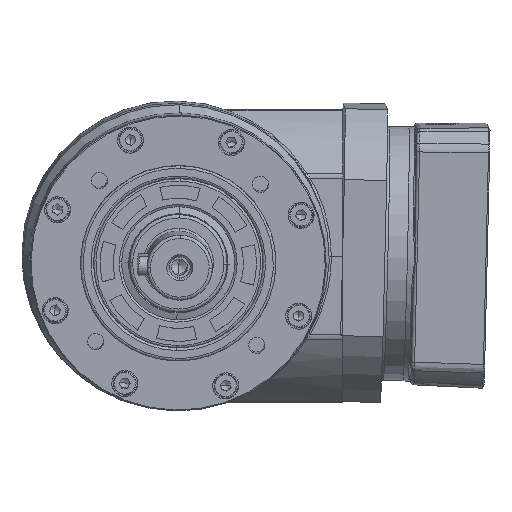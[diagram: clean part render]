
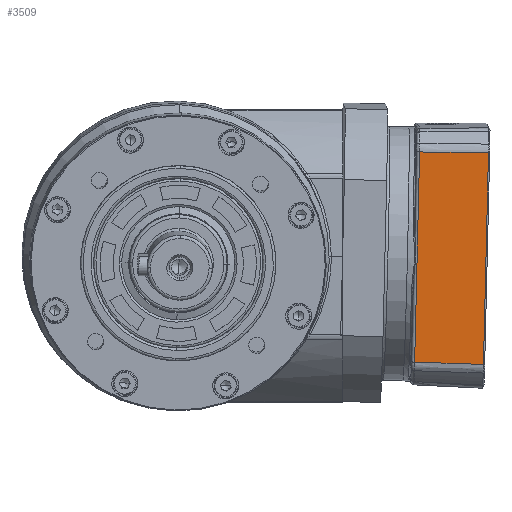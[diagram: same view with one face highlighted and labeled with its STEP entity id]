
A CAD part, left-side view. The second image highlights one B-rep face of the part: STEP entity #3509.
In plain terms, the highlighted planar face has unit normal (-1, 0.013, -0.023) as drawn and (-1, 0.026, 0.013) by its records, which use the part's own axes.
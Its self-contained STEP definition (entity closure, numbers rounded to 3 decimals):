
#3509 = ADVANCED_FACE ( 'NONE', ( #45350 ), #25969, .T. ) ;
#3679 = DIRECTION ( 'NONE',  ( -0.013, 0.001, -1. ) ) ;
#4018 = EDGE_LOOP ( 'NONE', ( #81585, #68165, #71722, #34657 ) ) ;
#5148 = EDGE_CURVE ( 'NONE', #29839, #39372, #39183, .T. ) ;
#6188 = B_SPLINE_CURVE_WITH_KNOTS ( 'NONE', 3,
 ( #68312, #74846, #29584, #82075 ),
 .UNSPECIFIED., .F., .F.,
 ( 4, 4 ),
 ( 0., 1. ),
 .UNSPECIFIED. ) ;
#10056 = CARTESIAN_POINT ( 'NONE',  ( 25.771, -127.802, 86.047 ) ) ;
#12672 = DIRECTION ( 'NONE',  ( -1., 0.026, 0.013 ) ) ;
#16011 = DIRECTION ( 'NONE',  ( 0.013, -0.001, 1. ) ) ;
#18193 = CARTESIAN_POINT ( 'NONE',  ( 25.586, -134.847, 85.975 ) ) ;
#25969 = PLANE ( 'NONE',  #32098 ) ;
#28082 = CARTESIAN_POINT ( 'NONE',  ( 26.447, -134.88, 151.353 ) ) ;
#29584 = CARTESIAN_POINT ( 'NONE',  ( 26.809, -120.789, 150.822 ) ) ;
#29839 = VERTEX_POINT ( 'NONE', #65557 ) ;
#32098 = AXIS2_PLACEMENT_3D ( 'NONE', #59501, #12672, #32432 ) ;
#32432 = DIRECTION ( 'NONE',  ( -0.026, -1., 0. ) ) ;
#32965 = EDGE_CURVE ( 'NONE', #29839, #41565, #62419, .T. ) ;
#34657 = ORIENTED_EDGE ( 'NONE', *, *, #66970, .T. ) ;
#36284 = CARTESIAN_POINT ( 'NONE',  ( 25.957, -120.756, 86.119 ) ) ;
#37941 = CARTESIAN_POINT ( 'NONE',  ( 26.142, -113.711, 86.192 ) ) ;
#39183 = B_SPLINE_CURVE_WITH_KNOTS ( 'NONE', 3,
 ( #18193, #10056, #36284, #37941 ),
 .UNSPECIFIED., .F., .F.,
 ( 4, 4 ),
 ( 0., 1. ),
 .UNSPECIFIED. ) ;
#39372 = VERTEX_POINT ( 'NONE', #83511 ) ;
#41565 = VERTEX_POINT ( 'NONE', #75744 ) ;
#43849 = VERTEX_POINT ( 'NONE', #81326 ) ;
#45350 = FACE_OUTER_BOUND ( 'NONE', #4018, .T. ) ;
#47407 = EDGE_CURVE ( 'NONE', #41565, #43849, #6188, .T. ) ;
#47992 = VECTOR ( 'NONE', #3679, 1000. ) ;
#54837 = CARTESIAN_POINT ( 'NONE',  ( 26.993, -113.743, 150.752 ) ) ;
#59501 = CARTESIAN_POINT ( 'NONE',  ( 25.576, -135.007, 85.585 ) ) ;
#62419 = LINE ( 'NONE', #28082, #63723 ) ;
#63723 = VECTOR ( 'NONE', #16011, 1000. ) ;
#65557 = CARTESIAN_POINT ( 'NONE',  ( 25.586, -134.847, 85.975 ) ) ;
#66970 = EDGE_CURVE ( 'NONE', #43849, #39372, #81982, .T. ) ;
#68165 = ORIENTED_EDGE ( 'NONE', *, *, #32965, .T. ) ;
#68312 = CARTESIAN_POINT ( 'NONE',  ( 26.442, -134.88, 150.963 ) ) ;
#71722 = ORIENTED_EDGE ( 'NONE', *, *, #47407, .T. ) ;
#74846 = CARTESIAN_POINT ( 'NONE',  ( 26.626, -127.834, 150.892 ) ) ;
#75744 = CARTESIAN_POINT ( 'NONE',  ( 26.442, -134.88, 150.963 ) ) ;
#81326 = CARTESIAN_POINT ( 'NONE',  ( 26.993, -113.743, 150.752 ) ) ;
#81585 = ORIENTED_EDGE ( 'NONE', *, *, #5148, .F. ) ;
#81982 = LINE ( 'NONE', #54837, #47992 ) ;
#82075 = CARTESIAN_POINT ( 'NONE',  ( 26.993, -113.743, 150.752 ) ) ;
#83511 = CARTESIAN_POINT ( 'NONE',  ( 26.142, -113.711, 86.192 ) ) ;
